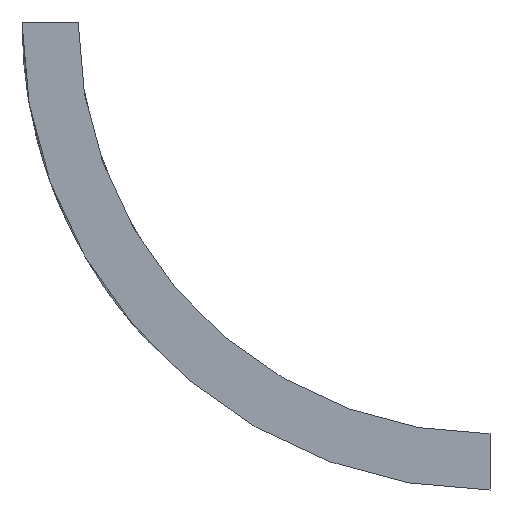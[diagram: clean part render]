
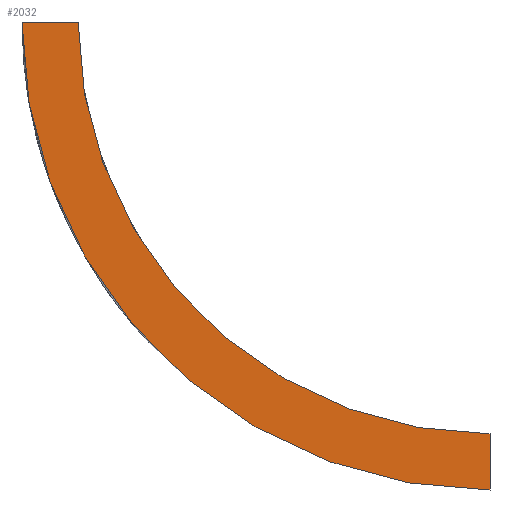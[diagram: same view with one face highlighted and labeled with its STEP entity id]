
A CAD part, front view. The second image highlights one B-rep face of the part: STEP entity #2032.
In plain terms, the highlighted planar face has unit normal (0, -1, 0).
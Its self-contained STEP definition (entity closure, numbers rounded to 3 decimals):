
#32 = CYLINDRICAL_SURFACE('',#33,10.);
#33 = AXIS2_PLACEMENT_3D('',#34,#35,#36);
#34 = CARTESIAN_POINT('',(-29.,-25.,-14.));
#35 = DIRECTION('',(0.,1.,0.));
#36 = DIRECTION('',(-0.707,0.,-0.707));
#433 = VERTEX_POINT('',#434);
#434 = CARTESIAN_POINT('',(-29.,-50.,-24.));
#448 = PLANE('',#449);
#449 = AXIS2_PLACEMENT_3D('',#450,#451,#452);
#450 = CARTESIAN_POINT('',(-29.,0.,-23.4));
#451 = DIRECTION('',(-1.,-0.,-0.));
#452 = DIRECTION('',(0.,0.,-1.));
#460 = EDGE_CURVE('',#461,#433,#463,.T.);
#461 = VERTEX_POINT('',#462);
#462 = CARTESIAN_POINT('',(-39.,-50.,-14.));
#463 = SURFACE_CURVE('',#464,(#469,#476),.PCURVE_S1.);
#464 = CIRCLE('',#465,10.);
#465 = AXIS2_PLACEMENT_3D('',#466,#467,#468);
#466 = CARTESIAN_POINT('',(-29.,-50.,-14.));
#467 = DIRECTION('',(0.,-1.,0.));
#468 = DIRECTION('',(-1.,0.,0.));
#469 = PCURVE('',#32,#470);
#470 = DEFINITIONAL_REPRESENTATION('',(#471),#475);
#471 = LINE('',#472,#473);
#472 = CARTESIAN_POINT('',(0.785,-25.));
#473 = VECTOR('',#474,1.);
#474 = DIRECTION('',(-1.,0.));
#475 = ( GEOMETRIC_REPRESENTATION_CONTEXT(2) 
PARAMETRIC_REPRESENTATION_CONTEXT() REPRESENTATION_CONTEXT('2D SPACE',''
  ) );
#476 = PCURVE('',#477,#482);
#477 = PLANE('',#478);
#478 = AXIS2_PLACEMENT_3D('',#479,#480,#481);
#479 = CARTESIAN_POINT('',(-34.782,-50.,-19.782));
#480 = DIRECTION('',(-0.,-1.,-0.));
#481 = DIRECTION('',(0.,0.,-1.));
#482 = DEFINITIONAL_REPRESENTATION('',(#483),#487);
#483 = CIRCLE('',#484,10.);
#484 = AXIS2_PLACEMENT_2D('',#485,#486);
#485 = CARTESIAN_POINT('',(-5.782,5.782));
#486 = DIRECTION('',(0.,-1.));
#487 = ( GEOMETRIC_REPRESENTATION_CONTEXT(2) 
PARAMETRIC_REPRESENTATION_CONTEXT() REPRESENTATION_CONTEXT('2D SPACE',''
  ) );
#505 = PLANE('',#506);
#506 = AXIS2_PLACEMENT_3D('',#507,#508,#509);
#507 = CARTESIAN_POINT('',(-38.4,-49.027,-14.));
#508 = DIRECTION('',(0.,-0.,-1.));
#509 = DIRECTION('',(-1.,0.,0.));
#1288 = CYLINDRICAL_SURFACE('',#1289,8.8);
#1289 = AXIS2_PLACEMENT_3D('',#1290,#1291,#1292);
#1290 = CARTESIAN_POINT('',(-29.,-25.,-14.));
#1291 = DIRECTION('',(0.,1.,0.));
#1292 = DIRECTION('',(-0.707,0.,-0.707));
#1988 = EDGE_CURVE('',#433,#1989,#1991,.T.);
#1989 = VERTEX_POINT('',#1990);
#1990 = CARTESIAN_POINT('',(-29.,-50.,-22.8));
#1991 = SURFACE_CURVE('',#1992,(#1996,#2003),.PCURVE_S1.);
#1992 = LINE('',#1993,#1994);
#1993 = CARTESIAN_POINT('',(-29.,-50.,-24.));
#1994 = VECTOR('',#1995,1.);
#1995 = DIRECTION('',(0.,0.,1.));
#1996 = PCURVE('',#448,#1997);
#1997 = DEFINITIONAL_REPRESENTATION('',(#1998),#2002);
#1998 = LINE('',#1999,#2000);
#1999 = CARTESIAN_POINT('',(0.6,50.));
#2000 = VECTOR('',#2001,1.);
#2001 = DIRECTION('',(-1.,0.));
#2002 = ( GEOMETRIC_REPRESENTATION_CONTEXT(2) 
PARAMETRIC_REPRESENTATION_CONTEXT() REPRESENTATION_CONTEXT('2D SPACE',''
  ) );
#2003 = PCURVE('',#477,#2004);
#2004 = DEFINITIONAL_REPRESENTATION('',(#2005),#2009);
#2005 = LINE('',#2006,#2007);
#2006 = CARTESIAN_POINT('',(4.218,5.782));
#2007 = VECTOR('',#2008,1.);
#2008 = DIRECTION('',(-1.,0.));
#2009 = ( GEOMETRIC_REPRESENTATION_CONTEXT(2) 
PARAMETRIC_REPRESENTATION_CONTEXT() REPRESENTATION_CONTEXT('2D SPACE',''
  ) );
#2032 = ADVANCED_FACE('',(#2033),#477,.T.);
#2033 = FACE_BOUND('',#2034,.T.);
#2034 = EDGE_LOOP('',(#2035,#2036,#2037,#2061));
#2035 = ORIENTED_EDGE('',*,*,#460,.T.);
#2036 = ORIENTED_EDGE('',*,*,#1988,.T.);
#2037 = ORIENTED_EDGE('',*,*,#2038,.F.);
#2038 = EDGE_CURVE('',#2039,#1989,#2041,.T.);
#2039 = VERTEX_POINT('',#2040);
#2040 = CARTESIAN_POINT('',(-37.8,-50.,-14.));
#2041 = SURFACE_CURVE('',#2042,(#2047,#2054),.PCURVE_S1.);
#2042 = CIRCLE('',#2043,8.8);
#2043 = AXIS2_PLACEMENT_3D('',#2044,#2045,#2046);
#2044 = CARTESIAN_POINT('',(-29.,-50.,-14.));
#2045 = DIRECTION('',(0.,-1.,-0.));
#2046 = DIRECTION('',(-1.,0.,0.));
#2047 = PCURVE('',#477,#2048);
#2048 = DEFINITIONAL_REPRESENTATION('',(#2049),#2053);
#2049 = CIRCLE('',#2050,8.8);
#2050 = AXIS2_PLACEMENT_2D('',#2051,#2052);
#2051 = CARTESIAN_POINT('',(-5.782,5.782));
#2052 = DIRECTION('',(0.,-1.));
#2053 = ( GEOMETRIC_REPRESENTATION_CONTEXT(2) 
PARAMETRIC_REPRESENTATION_CONTEXT() REPRESENTATION_CONTEXT('2D SPACE',''
  ) );
#2054 = PCURVE('',#1288,#2055);
#2055 = DEFINITIONAL_REPRESENTATION('',(#2056),#2060);
#2056 = LINE('',#2057,#2058);
#2057 = CARTESIAN_POINT('',(7.069,-25.));
#2058 = VECTOR('',#2059,1.);
#2059 = DIRECTION('',(-1.,0.));
#2060 = ( GEOMETRIC_REPRESENTATION_CONTEXT(2) 
PARAMETRIC_REPRESENTATION_CONTEXT() REPRESENTATION_CONTEXT('2D SPACE',''
  ) );
#2061 = ORIENTED_EDGE('',*,*,#2062,.F.);
#2062 = EDGE_CURVE('',#461,#2039,#2063,.T.);
#2063 = SURFACE_CURVE('',#2064,(#2068,#2075),.PCURVE_S1.);
#2064 = LINE('',#2065,#2066);
#2065 = CARTESIAN_POINT('',(-39.,-50.,-14.));
#2066 = VECTOR('',#2067,1.);
#2067 = DIRECTION('',(1.,0.,0.));
#2068 = PCURVE('',#477,#2069);
#2069 = DEFINITIONAL_REPRESENTATION('',(#2070),#2074);
#2070 = LINE('',#2071,#2072);
#2071 = CARTESIAN_POINT('',(-5.782,-4.218));
#2072 = VECTOR('',#2073,1.);
#2073 = DIRECTION('',(0.,1.));
#2074 = ( GEOMETRIC_REPRESENTATION_CONTEXT(2) 
PARAMETRIC_REPRESENTATION_CONTEXT() REPRESENTATION_CONTEXT('2D SPACE',''
  ) );
#2075 = PCURVE('',#505,#2076);
#2076 = DEFINITIONAL_REPRESENTATION('',(#2077),#2081);
#2077 = LINE('',#2078,#2079);
#2078 = CARTESIAN_POINT('',(0.6,-0.973));
#2079 = VECTOR('',#2080,1.);
#2080 = DIRECTION('',(-1.,0.));
#2081 = ( GEOMETRIC_REPRESENTATION_CONTEXT(2) 
PARAMETRIC_REPRESENTATION_CONTEXT() REPRESENTATION_CONTEXT('2D SPACE',''
  ) );
